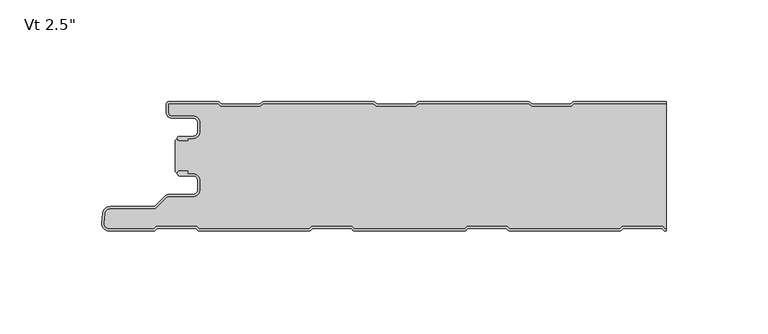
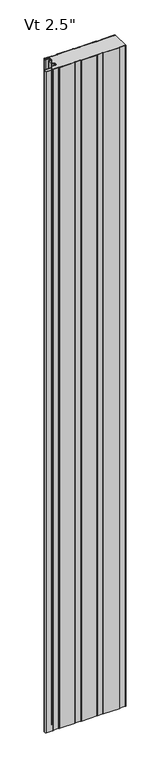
"""IFC4 building model written with IfcOpenShell, lengths in millimetres: plate geometry."""

from ifc_helpers import new_model, si_unit, point, frame, frame_2d, origin, origin_with_axes, place, context, project, spatial, polyline, circle_curve, trimmed, segment, composite_curve, outline, extrude, source, transform, mapped, element, save
from ifc_brep_helpers import plane_surface, cylinder_surface, revolved_surface, advanced_brep


def plate_bcca7846(model_context):
    return source(origin(), model_context, "Body", "SolidModel", [
        advanced_brep(
        [(-118.368691, -17.0015034, 2400.0), (-119.3686883, -18.0015065, 2400.0), (-118.368691, -19.0014978, 2400.0), (-114.3684874, -19.0014979, 2400.0), (-114.3684874, -18.0015034, 2400.0), (-111.6762776, -18.0015034, 2400.0), (-108.3762819, -14.7015077, 2400.0), (-108.3762819, -10.3015164, 2400.0), (-111.6762774, -7.001521, 2400.0), (-122.0962563, -7.001521, 2400.0), (-123.8662505, -5.2315268, 2400.0), (-123.8662505, -0.9999791, 2400.0), (-99.3659738, -0.9999791, 2400.0), (-97.9803312, -2.2002182, 2400.0), (-78.6051649, -2.2002182, 2400.0), (-77.219532, -0.9999874, 2400.0), (-23.1661166, -0.9999874, 2400.0), (-21.7804836, -2.2002182, 2400.0), (-2.4053173, -2.2002182, 2400.0), (-1.0196844, -0.9999874, 2400.0), (53.033731, -0.9999874, 2400.0), (54.419364, -2.2002182, 2400.0), (73.7945303, -2.2002182, 2400.0), (75.1801632, -0.9999874, 2400.0), (120.3999998, -0.9999874, 2400.0), (120.3999998, 1.26e-05, 2400.0), (75.3293144, 1.26e-05, 2400.0), (74.4126975, -0.3417759, 2400.0), (73.4216499, -1.2002182, 2400.0), (54.7922444, -1.2002182, 2400.0), (53.8011968, -0.3417759, 2400.0), (52.8845799, 1.26e-05, 2400.0), (-0.8705332, 1.26e-05, 2400.0), (-1.7871501, -0.3417759, 2400.0), (-2.7781977, -1.2002182, 2400.0), (-21.4076032, -1.2002182, 2400.0), (-22.3986508, -0.3417759, 2400.0), (-23.3152677, 1.26e-05, 2400.0), (-77.0703808, 1.26e-05, 2400.0), (-77.9869977, -0.3417759, 2400.0), (-78.9780453, -1.2002182, 2400.0), (-97.6074508, -1.2002182, 2400.0), (-98.5984984, -0.3417759, 2400.0), (-99.5152067, 1.26e-05, 2400.0), (-123.4662543, 2.09e-05, 2400.0), (-124.8662505, -1.3999752, 2400.0), (-124.8662505, -5.2315268, 2400.0), (-122.0962563, -8.001521, 2400.0), (-111.6762774, -8.001521, 2400.0), (-109.3762819, -10.3015164, 2400.0), (-109.3762819, -14.7015077, 2400.0), (-111.6762776, -17.0015034, 2400.0), (-118.368691, -17.0015034, 0.0), (-111.6762776, -17.0015034, 0.0), (-109.3762819, -14.7015077, 0.0), (-109.3762819, -10.3015164, 0.0), (-111.6762774, -8.001521, 0.0), (-122.0962563, -8.001521, 0.0), (-124.8662505, -5.2315268, 0.0), (-124.8662505, -1.3999752, 0.0), (-123.4662543, 2.09e-05, 0.0), (-99.5151153, 2.09e-05, 0.0), (-98.5984984, -0.3417759, 0.0), (-97.6074508, -1.2002182, 0.0), (-78.9780453, -1.2002182, 0.0), (-77.9869977, -0.3417759, 0.0), (-77.0703808, 1.26e-05, 0.0), (-23.3152677, 1.26e-05, 0.0), (-22.3986508, -0.3417759, 0.0), (-21.4076032, -1.2002182, 0.0), (-2.7781977, -1.2002182, 0.0), (-1.7871501, -0.3417759, 0.0), (-0.8705332, 1.26e-05, 0.0), (52.8845799, 1.26e-05, 0.0), (53.8011968, -0.3417759, 0.0), (54.7922444, -1.2002182, 0.0), (73.4216499, -1.2002182, 0.0), (74.4126975, -0.3417759, 0.0), (75.3293144, 1.26e-05, 0.0), (120.3999998, 1.26e-05, 0.0), (120.3999998, -0.9999874, 0.0), (75.1801632, -0.9999874, 0.0), (73.7945303, -2.2002182, 0.0), (54.419364, -2.2002182, 0.0), (53.033731, -0.9999874, 0.0), (-1.0196844, -0.9999874, 0.0), (-2.4053173, -2.2002182, 0.0), (-21.7804836, -2.2002182, 0.0), (-23.1661166, -0.9999874, 0.0), (-77.219532, -0.9999874, 0.0), (-78.6051649, -2.2002182, 0.0), (-97.9803312, -2.2002182, 0.0), (-99.3659738, -0.9999791, 0.0), (-123.8662505, -0.9999791, 0.0), (-123.8662505, -5.2315268, 0.0), (-122.0962563, -7.001521, 0.0), (-111.6762774, -7.001521, 0.0), (-108.3762819, -10.3015164, 0.0), (-108.3762819, -14.7015077, 0.0), (-111.6762776, -18.0015034, 0.0), (-114.3684874, -18.0015034, 0.0), (-114.3684874, -19.0014979, 0.0), (-118.368691, -19.0014979, 0.0), (-119.3686882, -18.0015065, 0.0)],
        [
            (0, 1, circle_curve(frame((-118.368691, -18.0015006, 2400.0), z_axis=(0.0, 0.0, 1.0), x_axis=(1.0, 0.0, 0.0)), 0.9999973)),
            (1, 2, circle_curve(frame((-118.368691, -18.0015006, 2400.0), z_axis=(0.0, 0.0, 1.0), x_axis=(1.0, 0.0, 0.0)), 0.9999972)),
            (2, 3),
            (3, 4),
            (4, 5),
            (5, 6, circle_curve(frame((-111.6762776, -14.7015077, 2400.0), z_axis=(0.0, 0.0, 1.0), x_axis=(1.0, 0.0, 0.0)), 3.2999957)),
            (6, 7),
            (7, 8, circle_curve(frame((-111.6762774, -10.3015164, 2400.0), z_axis=(0.0, 0.0, 1.0), x_axis=(1.0, 0.0, 0.0)), 3.2999955)),
            (8, 9),
            (9, 10, circle_curve(frame((-122.0962563, -5.2315268, 2400.0), z_axis=(0.0, 0.0, -1.0), x_axis=(1.0, 0.0, 0.0)), 1.7699942)),
            (10, 11),
            (11, 12),
            (12, 13),
            (13, 14),
            (14, 15),
            (15, 16),
            (16, 17),
            (17, 18),
            (18, 19),
            (19, 20),
            (20, 21),
            (21, 22),
            (22, 23),
            (23, 24),
            (24, 25),
            (25, 26),
            (26, 27, circle_curve(frame((75.3293144, -1.3999846, 2400.0), z_axis=(0.0, 0.0, 1.0), x_axis=(1.0, 0.0, 0.0)), 1.3999972)),
            (27, 28),
            (28, 29),
            (29, 30),
            (30, 31, circle_curve(frame((52.8845799, -1.3999846, 2400.0), z_axis=(0.0, 0.0, 1.0), x_axis=(1.0, 0.0, 0.0)), 1.3999972)),
            (31, 32),
            (32, 33, circle_curve(frame((-0.8705332, -1.3999846, 2400.0), z_axis=(0.0, 0.0, 1.0), x_axis=(1.0, 0.0, 0.0)), 1.3999972)),
            (33, 34),
            (34, 35),
            (35, 36),
            (36, 37, circle_curve(frame((-23.3152677, -1.3999846, 2400.0), z_axis=(0.0, 0.0, 1.0), x_axis=(1.0, 0.0, 0.0)), 1.3999972)),
            (37, 38),
            (38, 39, circle_curve(frame((-77.0703808, -1.3999846, 2400.0), z_axis=(0.0, 0.0, 1.0), x_axis=(1.0, 0.0, 0.0)), 1.3999972)),
            (39, 40),
            (40, 41),
            (41, 42),
            (42, 43, circle_curve(frame((-99.5151153, -1.3999846, 2400.0), z_axis=(0.0, 0.0, 1.0), x_axis=(1.0, 0.0, 0.0)), 1.3999972)),
            (43, 44),
            (44, 45, circle_curve(frame((-123.4662543, -1.3999752, 2400.0), z_axis=(0.0, 0.0, 1.0), x_axis=(1.0, 0.0, 0.0)), 1.3999962)),
            (45, 46),
            (46, 47, circle_curve(frame((-122.0962563, -5.2315268, 2400.0), z_axis=(0.0, 0.0, 1.0), x_axis=(1.0, 0.0, 0.0)), 2.7699942)),
            (47, 48),
            (48, 49, circle_curve(frame((-111.6762774, -10.3015164, 2400.0), z_axis=(0.0, 0.0, -1.0), x_axis=(1.0, 0.0, 0.0)), 2.2999955)),
            (49, 50),
            (50, 51, circle_curve(frame((-111.6762776, -14.7015077, 2400.0), z_axis=(0.0, 0.0, -1.0), x_axis=(1.0, 0.0, 0.0)), 2.2999957)),
            (51, 0),
            (52, 53),
            (53, 54, circle_curve(frame((-111.6762776, -14.7015077, 0.0), z_axis=(0.0, 0.0, 1.0), x_axis=(1.0, 0.0, 0.0)), 2.2999957)),
            (54, 55),
            (55, 56, circle_curve(frame((-111.6762774, -10.3015164, 0.0), z_axis=(0.0, 0.0, 1.0), x_axis=(1.0, 0.0, 0.0)), 2.2999955)),
            (56, 57),
            (57, 58, circle_curve(frame((-122.0962563, -5.2315268, 0.0), z_axis=(0.0, 0.0, -1.0), x_axis=(1.0, 0.0, 0.0)), 2.7699942)),
            (58, 59),
            (59, 60, circle_curve(frame((-123.4662543, -1.3999752, 0.0), z_axis=(0.0, 0.0, -1.0), x_axis=(1.0, 0.0, 0.0)), 1.3999962)),
            (60, 61),
            (61, 62, circle_curve(frame((-99.5151153, -1.3999846, 0.0), z_axis=(0.0, 0.0, -1.0), x_axis=(1.0, 0.0, 0.0)), 1.3999972)),
            (62, 63),
            (63, 64),
            (64, 65),
            (65, 66, circle_curve(frame((-77.0703808, -1.3999846, 0.0), z_axis=(0.0, 0.0, -1.0), x_axis=(1.0, 0.0, 0.0)), 1.3999972)),
            (66, 67),
            (67, 68, circle_curve(frame((-23.3152677, -1.3999846, 0.0), z_axis=(0.0, 0.0, -1.0), x_axis=(1.0, 0.0, 0.0)), 1.3999972)),
            (68, 69),
            (69, 70),
            (70, 71),
            (71, 72, circle_curve(frame((-0.8705332, -1.3999846, 0.0), z_axis=(0.0, 0.0, -1.0), x_axis=(1.0, 0.0, 0.0)), 1.3999972)),
            (72, 73),
            (73, 74, circle_curve(frame((52.8845799, -1.3999846, 0.0), z_axis=(0.0, 0.0, -1.0), x_axis=(1.0, 0.0, 0.0)), 1.3999972)),
            (74, 75),
            (75, 76),
            (76, 77),
            (77, 78, circle_curve(frame((75.3293144, -1.3999846, 0.0), z_axis=(0.0, 0.0, -1.0), x_axis=(1.0, 0.0, 0.0)), 1.3999972)),
            (78, 79),
            (79, 80),
            (80, 81),
            (81, 82),
            (82, 83),
            (83, 84),
            (84, 85),
            (85, 86),
            (86, 87),
            (87, 88),
            (88, 89),
            (89, 90),
            (90, 91),
            (91, 92),
            (92, 93),
            (93, 94),
            (94, 95, circle_curve(frame((-122.0962563, -5.2315268, 0.0), z_axis=(0.0, 0.0, 1.0), x_axis=(1.0, 0.0, 0.0)), 1.7699942)),
            (95, 96),
            (96, 97, circle_curve(frame((-111.6762774, -10.3015164, 0.0), z_axis=(0.0, 0.0, -1.0), x_axis=(1.0, 0.0, 0.0)), 3.2999955)),
            (97, 98),
            (98, 99, circle_curve(frame((-111.6762776, -14.7015077, 0.0), z_axis=(0.0, 0.0, -1.0), x_axis=(1.0, 0.0, 0.0)), 3.2999957)),
            (99, 100),
            (100, 101),
            (101, 102),
            (102, 103, circle_curve(frame((-118.368691, -18.0015006, 0.0), z_axis=(0.0, 0.0, -1.0), x_axis=(1.0, 0.0, 0.0)), 0.9999972)),
            (103, 52, circle_curve(frame((-118.368691, -18.0015006, 0.0), z_axis=(0.0, 0.0, -1.0), x_axis=(1.0, 0.0, 0.0)), 0.9999973)),
            (24, 80),
            (79, 25),
            (51, 53),
            (52, 0),
            (50, 54),
            (49, 55),
            (48, 56),
            (47, 57),
            (46, 58),
            (45, 59),
            (44, 60),
            (43, 61),
            (78, 26),
            (42, 62),
            (41, 63),
            (40, 64),
            (38, 66),
            (65, 39),
            (36, 68),
            (67, 37),
            (77, 27),
            (76, 28),
            (31, 73),
            (72, 32),
            (71, 33),
            (34, 70),
            (69, 35),
            (30, 74),
            (29, 75),
            (2, 102),
            (101, 3),
            (1, 103),
            (23, 81),
            (22, 82),
            (21, 83),
            (20, 84),
            (19, 85),
            (18, 86),
            (17, 87),
            (16, 88),
            (15, 89),
            (14, 90),
            (13, 91),
            (12, 92),
            (11, 93),
            (10, 94),
            (9, 95),
            (8, 96),
            (7, 97),
            (6, 98),
            (5, 99),
            (4, 100),
        ],
        [
            plane_surface(frame((184.4000002, 1.26e-05, 2400.0), z_axis=(0.0, 0.0, 1.0), x_axis=(0.0, 1.0, 0.0))),
            plane_surface(frame((184.4000002, 1.26e-05, 0.0), z_axis=(0.0, 0.0, -1.0), x_axis=(0.0, 1.0, 0.0))),
            plane_surface(frame((120.3999998, -73.4999874, 2400.0), z_axis=(1.0, 0.0, 0.0), x_axis=(0.0, 0.0, -1.0))),
            plane_surface(frame((-118.368691, -17.0015034, 2400.0), z_axis=(0.0, 1.0, 0.0), x_axis=(0.0, 0.0, -1.0))),
            revolved_surface(polyline([(-109.37628190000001, -14.7015077, 0.0), (-109.37628190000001, -14.7015077, 2400.0)]), (-111.6762776, -14.7015077, 2400.0), (0.0, 0.0, -1.0)),
            plane_surface(frame((-109.3762819, -14.7015077, 2400.0), z_axis=(-1.0, 0.0, 0.0), x_axis=(0.0, 0.0, -1.0))),
            revolved_surface(polyline([(-109.37628190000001, -10.3015164, 0.0), (-109.37628190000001, -10.3015164, 2400.0)]), (-111.6762774, -10.3015164, 2400.0), (0.0, 0.0, -1.0)),
            plane_surface(frame((-111.6762774, -8.001521, 2400.0), z_axis=(0.0, -1.0, 0.0), x_axis=(0.0, 0.0, -1.0))),
            cylinder_surface(frame((-122.0962563, -5.2315268, 2400.0), z_axis=(0.0, 0.0, 1.0), x_axis=(1.0, 0.0, 0.0)), 2.7699942),
            plane_surface(frame((-124.8662505, -5.2315268, 2400.0), z_axis=(-1.0, 0.0, 0.0), x_axis=(0.0, 0.0, -1.0))),
            cylinder_surface(frame((-123.4662543, -1.3999752, 2400.0), z_axis=(0.0, 0.0, 1.0), x_axis=(1.0, 0.0, 0.0)), 1.3999962),
            plane_surface(frame((-123.4662543, 2.09e-05, 2400.0), z_axis=(0.0, 1.0, 0.0), x_axis=(0.0, 0.0, -1.0))),
            plane_surface(frame((75.3293144, 1.26e-05, 2400.0), z_axis=(0.0, 1.0, 0.0), x_axis=(0.0, 0.0, -1.0))),
            cylinder_surface(frame((-99.5151153, -1.3999846, 2400.0), z_axis=(0.0, 0.0, 1.0), x_axis=(1.0, 0.0, 0.0)), 1.3999972),
            plane_surface(frame((-98.5984984, -0.3417759, 2400.0), z_axis=(0.6547276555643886, 0.755864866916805, 0.0), x_axis=(0.0, 0.0, -1.0))),
            plane_surface(frame((-88.2927481, -1.2002182, 2400.0), z_axis=(0.0, 1.0, 0.0), x_axis=(0.0, 0.0, -1.0))),
            cylinder_surface(frame((-77.0703808, -1.3999846, 2400.0), z_axis=(0.0, 0.0, 1.0), x_axis=(1.0, 0.0, 0.0)), 1.3999972),
            plane_surface(frame((-78.9780453, -1.2002182, 2400.0), z_axis=(-0.6547276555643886, 0.755864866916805, 0.0), x_axis=(0.0, 0.0, -1.0))),
            cylinder_surface(frame((-23.3152677, -1.3999846, 2400.0), z_axis=(0.0, 0.0, 1.0), x_axis=(1.0, 0.0, 0.0)), 1.3999972),
            cylinder_surface(frame((75.3293144, -1.3999846, 2400.0), z_axis=(0.0, 0.0, 1.0), x_axis=(1.0, 0.0, 0.0)), 1.3999972),
            plane_surface(frame((73.4216499, -1.2002182, 2400.0), z_axis=(-0.6547276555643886, 0.755864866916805, 0.0), x_axis=(0.0, 0.0, -1.0))),
            plane_surface(frame((-0.8705332, 1.26e-05, 2400.0), z_axis=(0.0, 1.0, 0.0), x_axis=(0.0, 0.0, -1.0))),
            cylinder_surface(frame((-0.8705332, -1.3999846, 2400.0), z_axis=(0.0, 0.0, 1.0), x_axis=(1.0, 0.0, 0.0)), 1.3999972),
            plane_surface(frame((-12.0929005, -1.2002182, 2400.0), z_axis=(0.0, 1.0, 0.0), x_axis=(0.0, 0.0, -1.0))),
            plane_surface(frame((-22.3986508, -0.3417759, 2400.0), z_axis=(0.6547276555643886, 0.755864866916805, 0.0), x_axis=(0.0, 0.0, -1.0))),
            plane_surface(frame((-2.7781977, -1.2002182, 2400.0), z_axis=(-0.6547276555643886, 0.755864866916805, 0.0), x_axis=(0.0, 0.0, -1.0))),
            plane_surface(frame((-77.0703808, 1.26e-05, 2400.0), z_axis=(0.0, 1.0, 0.0), x_axis=(0.0, 0.0, -1.0))),
            cylinder_surface(frame((52.8845799, -1.3999846, 2400.0), z_axis=(0.0, 0.0, 1.0), x_axis=(1.0, 0.0, 0.0)), 1.3999972),
            plane_surface(frame((53.8011968, -0.3417759, 2400.0), z_axis=(0.6547276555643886, 0.755864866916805, 0.0), x_axis=(0.0, 0.0, -1.0))),
            plane_surface(frame((64.1069471, -1.2002182, 2400.0), z_axis=(0.0, 1.0, 0.0), x_axis=(0.0, 0.0, -1.0))),
            plane_surface(frame((-114.3684874, -19.0014979, 2400.0), z_axis=(0.0, -1.0, 0.0), x_axis=(0.0, 0.0, -1.0))),
            cylinder_surface(frame((-118.368691, -18.0015006, 2400.0), z_axis=(0.0, 0.0, 1.0), x_axis=(1.0, 0.0, 0.0)), 0.9999972),
            cylinder_surface(frame((-118.368691, -18.0015006, 2400.0), z_axis=(0.0, 0.0, 1.0), x_axis=(1.0, 0.0, 0.0)), 0.9999973),
            plane_surface(frame((129.2335786, -0.9999874, 2400.0), z_axis=(0.0, -1.0, 0.0), x_axis=(0.0, 0.0, -1.0))),
            plane_surface(frame((75.1801632, -0.9999874, 2400.0), z_axis=(0.6547276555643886, -0.755864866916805, 0.0), x_axis=(0.0, 0.0, -1.0))),
            plane_surface(frame((73.7945303, -2.2002182, 2400.0), z_axis=(0.0, -1.0, 0.0), x_axis=(0.0, 0.0, -1.0))),
            plane_surface(frame((54.419364, -2.2002182, 2400.0), z_axis=(-0.6547276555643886, -0.755864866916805, 0.0), x_axis=(0.0, 0.0, -1.0))),
            plane_surface(frame((53.033731, -0.9999874, 2400.0), z_axis=(0.0, -1.0, 0.0), x_axis=(0.0, 0.0, -1.0))),
            plane_surface(frame((-1.0196844, -0.9999874, 2400.0), z_axis=(0.6547276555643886, -0.755864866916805, 0.0), x_axis=(0.0, 0.0, -1.0))),
            plane_surface(frame((-2.4053173, -2.2002182, 2400.0), z_axis=(0.0, -1.0, 0.0), x_axis=(0.0, 0.0, -1.0))),
            plane_surface(frame((-21.7804836, -2.2002182, 2400.0), z_axis=(-0.6547276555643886, -0.755864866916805, 0.0), x_axis=(0.0, 0.0, -1.0))),
            plane_surface(frame((-23.1661166, -0.9999874, 2400.0), z_axis=(0.0, -1.0, 0.0), x_axis=(0.0, 0.0, -1.0))),
            plane_surface(frame((-77.219532, -0.9999874, 2400.0), z_axis=(0.6547276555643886, -0.755864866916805, 0.0), x_axis=(0.0, 0.0, -1.0))),
            plane_surface(frame((-78.6051649, -2.2002182, 2400.0), z_axis=(0.0, -1.0, 0.0), x_axis=(0.0, 0.0, -1.0))),
            plane_surface(frame((-97.9803312, -2.2002182, 2400.0), z_axis=(-0.6547276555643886, -0.755864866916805, 0.0), x_axis=(0.0, 0.0, -1.0))),
            plane_surface(frame((-99.3659738, -0.9999791, 2400.0), z_axis=(0.0, -1.0, 0.0), x_axis=(0.0, 0.0, -1.0))),
            plane_surface(frame((-123.8662505, -0.9999791, 2400.0), z_axis=(1.0, 0.0, 0.0), x_axis=(0.0, 0.0, -1.0))),
            revolved_surface(polyline([(-120.3262621, -5.2315268, 0.0), (-120.3262621, -5.2315268, 2400.0)]), (-122.0962563, -5.2315268, 2400.0), (0.0, 0.0, -1.0)),
            plane_surface(frame((-122.0962563, -7.001521, 2400.0), z_axis=(0.0, 1.0, 0.0), x_axis=(0.0, 0.0, -1.0))),
            cylinder_surface(frame((-111.6762774, -10.3015164, 2400.0), z_axis=(0.0, 0.0, 1.0), x_axis=(1.0, 0.0, 0.0)), 3.2999955),
            plane_surface(frame((-108.3762819, -10.3015164, 2400.0), z_axis=(1.0, 0.0, 0.0), x_axis=(0.0, 0.0, -1.0))),
            cylinder_surface(frame((-111.6762776, -14.7015077, 2400.0), z_axis=(0.0, 0.0, 1.0), x_axis=(1.0, 0.0, 0.0)), 3.2999957),
            plane_surface(frame((-111.6762776, -18.0015034, 2400.0), z_axis=(0.0, -1.0, 0.0), x_axis=(0.0, 0.0, -1.0))),
            plane_surface(frame((-114.3684874, -18.0015034, 2400.0), z_axis=(1.0, 0.0, 0.0), x_axis=(0.0, 0.0, -1.0))),
        ],
        [
            (0, [[1, 2, 3, 4, 5, 6, 7, 8, 9, 10, 11, 12, 13, 14, 15, 16, 17, 18, 19, 20, 21, 22, 23, 24, 25, 26, 27, 28, 29, 30, 31, 32, 33, 34, 35, 36, 37, 38, 39, 40, 41, 42, 43, 44, 45, 46, 47, 48, 49, 50, 51, 52]]),
            (1, [[53, 54, 55, 56, 57, 58, 59, 60, 61, 62, 63, 64, 65, 66, 67, 68, 69, 70, 71, 72, 73, 74, 75, 76, 77, 78, 79, 80, 81, 82, 83, 84, 85, 86, 87, 88, 89, 90, 91, 92, 93, 94, 95, 96, 97, 98, 99, 100, 101, 102, 103, 104]]),
            (2, [[105, -80, 106, -25]]),
            (3, [[107, -53, 108, -52]]),
            (4, [[109, -54, -107, -51]]),
            (5, [[110, -55, -109, -50]]),
            (6, [[111, -56, -110, -49]]),
            (7, [[112, -57, -111, -48]]),
            (8, [[113, -58, -112, -47]]),
            (9, [[114, -59, -113, -46]]),
            (10, [[115, -60, -114, -45]]),
            (11, [[116, -61, -115, -44]]),
            (12, [[-26, -106, -79, 117]]),
            (13, [[118, -62, -116, -43]]),
            (14, [[119, -63, -118, -42]]),
            (15, [[120, -64, -119, -41]]),
            (16, [[121, -66, 122, -39]]),
            (17, [[-122, -65, -120, -40]]),
            (18, [[123, -68, 124, -37]]),
            (19, [[-117, -78, 125, -27]]),
            (20, [[-125, -77, 126, -28]]),
            (21, [[127, -73, 128, -32]]),
            (22, [[-128, -72, 129, -33]]),
            (23, [[130, -70, 131, -35]]),
            (24, [[-131, -69, -123, -36]]),
            (25, [[-129, -71, -130, -34]]),
            (26, [[-124, -67, -121, -38]]),
            (27, [[132, -74, -127, -31]]),
            (28, [[133, -75, -132, -30]]),
            (29, [[-126, -76, -133, -29]]),
            (30, [[134, -102, 135, -3]]),
            (31, [[136, -103, -134, -2]]),
            (32, [[-108, -104, -136, -1]]),
            (33, [[-81, -105, -24, 137]]),
            (34, [[138, -82, -137, -23]]),
            (35, [[139, -83, -138, -22]]),
            (36, [[140, -84, -139, -21]]),
            (37, [[141, -85, -140, -20]]),
            (38, [[142, -86, -141, -19]]),
            (39, [[143, -87, -142, -18]]),
            (40, [[144, -88, -143, -17]]),
            (41, [[145, -89, -144, -16]]),
            (42, [[146, -90, -145, -15]]),
            (43, [[147, -91, -146, -14]]),
            (44, [[148, -92, -147, -13]]),
            (45, [[149, -93, -148, -12]]),
            (46, [[150, -94, -149, -11]]),
            (47, [[151, -95, -150, -10]]),
            (48, [[152, -96, -151, -9]]),
            (49, [[153, -97, -152, -8]]),
            (50, [[154, -98, -153, -7]]),
            (51, [[155, -99, -154, -6]]),
            (52, [[156, -100, -155, -5]]),
            (53, [[-135, -101, -156, -4]]),
        ],
    ),
        extrude(outline(composite_curve([segment(polyline([(-131.0415932, -63.4997253), (-152.8521175, -63.4997253)]), True, "CONTINUOUS"), segment(trimmed(circle_curve(frame_2d((-152.8521175, -59.929486)), 3.5702393), [point((-152.8521175, -63.4997253))], [point((-156.4087619, -59.6182156))], False, "CARTESIAN"), True, "CONTINUOUS"), segment(polyline([(-156.4087619, -59.6182156), (-155.9690674, -54.594169)]), True, "CONTINUOUS"), segment(trimmed(circle_curve(frame_2d((-152.3198391, -55.2049701)), 3.6999926), [point((-155.9690674, -54.594169))], [point((-152.3198391, -51.5049775))], False, "CARTESIAN"), True, "CONTINUOUS"), segment(polyline([(-152.3198391, -51.5049775), (-131.1773995, -51.5049775)]), True, "CONTINUOUS"), segment(trimmed(circle_curve(frame_2d((-131.1773995, -50.2049801)), 1.2999974), [point((-131.1773995, -51.5049775))], [point((-130.2581626, -51.1242171))], True, "CARTESIAN"), True, "CONTINUOUS"), segment(polyline([(-130.2581626, -51.1242171), (-125.4297451, -46.2957996)]), True, "CONTINUOUS"), segment(trimmed(circle_curve(frame_2d((-123.5205606, -48.2049841)), 2.6999946), [point((-125.4297451, -46.2957996))], [point((-123.5205606, -45.5049895))], False, "CARTESIAN"), True, "CONTINUOUS"), segment(polyline([(-123.5205606, -45.5049895), (-111.7096715, -45.5049895)]), True, "CONTINUOUS"), segment(trimmed(circle_curve(frame_2d((-111.7096715, -43.1549942)), 2.3499953), [point((-111.7096715, -45.5049895))], [point((-109.3596762, -43.1549942))], True, "CARTESIAN"), True, "CONTINUOUS"), segment(polyline([(-109.3596762, -43.1549942), (-109.3596762, -38.755003)]), True, "CONTINUOUS"), segment(trimmed(circle_curve(frame_2d((-111.7096715, -38.755003)), 2.3499953), [point((-109.3596762, -38.755003))], [point((-111.7096715, -36.4050077))], True, "CARTESIAN"), True, "CONTINUOUS"), segment(polyline([(-111.7096715, -36.4050077), (-118.2289777, -36.4050077)]), True, "CONTINUOUS"), segment(trimmed(circle_curve(frame_2d((-118.1686906, -35.2065254)), 1.1999976), [point((-118.2289777, -36.4050077))], [point((-119.3683, -35.1760035))], False, "CARTESIAN"), True, "CONTINUOUS"), segment(trimmed(circle_curve(frame_2d((-118.1686906, -35.2065254)), 1.1999976), [point((-119.3683, -35.1760035))], [point((-118.167176, -34.0065288))], False, "CARTESIAN"), True, "CONTINUOUS"), segment(polyline([(-118.167176, -34.0065288), (-114.4087826, -34.0065288), (-114.4087826, -35.4050077), (-111.7096715, -35.4050077)]), True, "CONTINUOUS"), segment(trimmed(circle_curve(frame_2d((-111.7096715, -38.755003)), 3.3499953), [point((-111.7096715, -35.4050077))], [point((-108.3596762, -38.755003))], False, "CARTESIAN"), True, "CONTINUOUS"), segment(polyline([(-108.3596762, -38.755003), (-108.3596762, -43.1549942)]), True, "CONTINUOUS"), segment(trimmed(circle_curve(frame_2d((-111.7096715, -43.1549942)), 3.3499953), [point((-108.3596762, -43.1549942))], [point((-111.7096715, -46.5049895))], False, "CARTESIAN"), True, "CONTINUOUS"), segment(polyline([(-111.7096715, -46.5049895), (-123.5205606, -46.5049895)]), True, "CONTINUOUS"), segment(trimmed(circle_curve(frame_2d((-123.5205606, -48.2049841)), 1.6999946), [point((-123.5205606, -46.5049895))], [point((-124.7226383, -47.0029064))], True, "CARTESIAN"), True, "CONTINUOUS"), segment(polyline([(-124.7226383, -47.0029064), (-130.2247094, -52.5049775), (-152.3198391, -52.5049775)]), True, "CONTINUOUS"), segment(trimmed(circle_curve(frame_2d((-152.3198391, -55.2049701)), 2.6999926), [point((-152.3198391, -52.5049775))], [point((-154.9765707, -54.7235795))], True, "CARTESIAN"), True, "CONTINUOUS"), segment(polyline([(-154.9765707, -54.7235795), (-155.4125697, -59.7054003)]), True, "CONTINUOUS"), segment(trimmed(circle_curve(frame_2d((-152.8521175, -59.929486)), 2.5702393), [point((-155.4125697, -59.7054003))], [point((-152.8521175, -62.4997253))], True, "CARTESIAN"), True, "CONTINUOUS"), segment(polyline([(-152.8521175, -62.4997253), (-130.879096, -62.4997253), (-129.6791275, -61.2997567), (-109.959715, -61.2997567), (-108.7594843, -62.4999874), (-54.6793525, -62.4999874), (-53.4791218, -61.2997567), (-33.7597093, -61.2997567), (-32.5594786, -62.4999874), (21.5206532, -62.4999874), (22.7208839, -61.2997567), (42.4402964, -61.2997567), (43.6405271, -62.4999874), (97.7206589, -62.4999874), (98.9208896, -61.2997567), (118.6403021, -61.2997567), (119.8405328, -62.4999874), (120.3999998, -62.4999874), (120.3999998, -63.4999874), (120.010284, -63.4999874)]), True, "CONTINUOUS"), segment(trimmed(circle_curve(frame_2d((120.0026306, -62.1000112)), 1.3999972), [point((120.010284, -63.4999874))], [point((118.9585798, -63.0327223))], False, "CARTESIAN"), True, "CONTINUOUS"), segment(polyline([(118.9585798, -63.0327223), (118.2256142, -62.2997567), (99.334945, -62.2997567), (98.6020004, -63.0327014)]), True, "CONTINUOUS"), segment(trimmed(circle_curve(frame_2d((97.5579496, -62.0999902)), 1.3999972), [point((98.6020004, -63.0327014))], [point((97.5579496, -63.4999874))], False, "CARTESIAN"), True, "CONTINUOUS"), segment(polyline([(97.5579496, -63.4999874), (43.8104364, -63.4999874)]), True, "CONTINUOUS"), segment(trimmed(circle_curve(frame_2d((43.802783, -62.1000112)), 1.3999972), [point((43.8104364, -63.4999874))], [point((42.7587322, -63.0327223))], False, "CARTESIAN"), True, "CONTINUOUS"), segment(polyline([(42.7587322, -63.0327223), (42.0257666, -62.2997567), (23.1350974, -62.2997567), (22.4021528, -63.0327014)]), True, "CONTINUOUS"), segment(trimmed(circle_curve(frame_2d((21.358102, -62.0999902)), 1.3999972), [point((22.4021528, -63.0327014))], [point((21.358102, -63.4999874))], False, "CARTESIAN"), True, "CONTINUOUS"), segment(polyline([(21.358102, -63.4999874), (-32.3894112, -63.4999874)]), True, "CONTINUOUS"), segment(trimmed(circle_curve(frame_2d((-32.3970646, -62.1000112)), 1.3999972), [point((-32.3894112, -63.4999874))], [point((-33.4411154, -63.0327223))], False, "CARTESIAN"), True, "CONTINUOUS"), segment(polyline([(-33.4411154, -63.0327223), (-34.174081, -62.2997567), (-53.0647502, -62.2997567), (-53.7976948, -63.0327014)]), True, "CONTINUOUS"), segment(trimmed(circle_curve(frame_2d((-54.8417456, -62.0999902)), 1.3999972), [point((-53.7976948, -63.0327014))], [point((-54.8417456, -63.4999874))], False, "CARTESIAN"), True, "CONTINUOUS"), segment(polyline([(-54.8417456, -63.4999874), (-108.5892588, -63.4999874)]), True, "CONTINUOUS"), segment(trimmed(circle_curve(frame_2d((-108.5969122, -62.1000112)), 1.3999972), [point((-108.5892588, -63.4999874))], [point((-109.640963, -63.0327223))], False, "CARTESIAN"), True, "CONTINUOUS"), segment(polyline([(-109.640963, -63.0327223), (-110.3739286, -62.2997567), (-129.2649139, -62.2997567), (-129.9976402, -63.032483)]), True, "CONTINUOUS"), segment(trimmed(circle_curve(frame_2d((-131.0415932, -62.0998592)), 1.3998661), [point((-129.9976402, -63.032483))], [point((-131.0415932, -63.4997253))], False, "CARTESIAN"), True, "CONTINUOUS")], self_intersect=False)), origin_with_axes(), (0.0, 0.0, 1.0), 2400.0),
        extrude(outline(composite_curve([segment(polyline([(-119.3683, -35.1760035), (-120.3999998, -34.1443036), (-120.3999998, -19.0328183), (-119.3686882, -18.0015066)]), True, "CONTINUOUS"), segment(trimmed(circle_curve(frame_2d((-118.368691, -18.0015007)), 0.9999972), [point((-119.3686882, -18.0015066))], [point((-118.368691, -19.0014979))], True, "CARTESIAN"), True, "CONTINUOUS"), segment(polyline([(-118.368691, -19.0014979), (-114.3684873, -19.0014979), (-114.3684873, -18.0015034), (-111.6762775, -18.0015034)]), True, "CONTINUOUS"), segment(trimmed(circle_curve(frame_2d((-111.6762775, -14.7015077)), 3.2999957), [point((-111.6762775, -18.0015034))], [point((-108.3762818, -14.7015077))], True, "CARTESIAN"), True, "CONTINUOUS"), segment(polyline([(-108.3762818, -14.7015077), (-108.3762818, -10.3015164)]), True, "CONTINUOUS"), segment(trimmed(circle_curve(frame_2d((-111.6762777, -10.3015164)), 3.2999959), [point((-108.3762818, -10.3015164))], [point((-111.6762777, -7.0015206))], True, "CARTESIAN"), True, "CONTINUOUS"), segment(polyline([(-111.6762777, -7.0015206), (-122.0962562, -7.0015206)]), True, "CONTINUOUS"), segment(trimmed(circle_curve(frame_2d((-122.0962562, -5.2315264)), 1.7699942), [point((-122.0962562, -7.0015206))], [point((-123.8662504, -5.2315264))], False, "CARTESIAN"), True, "CONTINUOUS"), segment(polyline([(-123.8662504, -5.2315264), (-123.8662504, -0.9999791), (-99.3659738, -0.9999791), (-97.9803312, -2.2002182), (-78.6051649, -2.2002182), (-77.2195319, -0.9999874), (-23.1661165, -0.9999874), (-21.7804836, -2.2002182), (-2.4053173, -2.2002182), (-1.0196843, -0.9999874), (53.0337311, -0.9999874), (54.419364, -2.2002182), (73.7945303, -2.2002182), (75.1801633, -0.9999874), (120.3999998, -0.9999874), (120.3999998, -62.4999874), (119.8405328, -62.4999874), (118.6403021, -61.2997567), (98.9208896, -61.2997567), (97.7206589, -62.4999874), (43.6405271, -62.4999874), (42.4402964, -61.2997567), (22.7208839, -61.2997567), (21.5206532, -62.4999874), (-32.5594786, -62.4999874), (-33.7597093, -61.2997567), (-53.4791218, -61.2997567), (-54.6793525, -62.4999874), (-108.7594843, -62.4999874), (-109.959715, -61.2997567), (-129.6791275, -61.2997567), (-130.879096, -62.4997253), (-152.8521175, -62.4997253)]), True, "CONTINUOUS"), segment(trimmed(circle_curve(frame_2d((-152.8521175, -59.929486)), 2.5702393), [point((-152.8521175, -62.4997253))], [point((-155.4125697, -59.7054003))], False, "CARTESIAN"), True, "CONTINUOUS"), segment(polyline([(-155.4125697, -59.7054003), (-154.9765707, -54.7235795)]), True, "CONTINUOUS"), segment(trimmed(circle_curve(frame_2d((-152.3198391, -55.2049701)), 2.6999926), [point((-154.9765707, -54.7235795))], [point((-152.3198391, -52.5049775))], False, "CARTESIAN"), True, "CONTINUOUS"), segment(polyline([(-152.3198391, -52.5049775), (-130.2247094, -52.5049775), (-124.7226383, -47.0029064)]), True, "CONTINUOUS"), segment(trimmed(circle_curve(frame_2d((-123.5205606, -48.2049841)), 1.6999946), [point((-124.7226383, -47.0029064))], [point((-123.5205606, -46.5049895))], False, "CARTESIAN"), True, "CONTINUOUS"), segment(polyline([(-123.5205606, -46.5049895), (-111.7096715, -46.5049895)]), True, "CONTINUOUS"), segment(trimmed(circle_curve(frame_2d((-111.7096715, -43.1549942)), 3.3499953), [point((-111.7096715, -46.5049895))], [point((-108.3596762, -43.1549942))], True, "CARTESIAN"), True, "CONTINUOUS"), segment(polyline([(-108.3596762, -43.1549942), (-108.3596762, -38.755003)]), True, "CONTINUOUS"), segment(trimmed(circle_curve(frame_2d((-111.7096715, -38.755003)), 3.3499953), [point((-108.3596762, -38.755003))], [point((-111.7096715, -35.4050077))], True, "CARTESIAN"), True, "CONTINUOUS"), segment(polyline([(-111.7096715, -35.4050077), (-114.4087826, -35.4050077), (-114.4087826, -34.0065288), (-118.167176, -34.0065288)]), True, "CONTINUOUS"), segment(trimmed(circle_curve(frame_2d((-118.1686906, -35.2065254)), 1.1999976), [point((-118.167176, -34.0065288))], [point((-119.3683, -35.1760035))], True, "CARTESIAN"), True, "CONTINUOUS")], self_intersect=False)), origin_with_axes(), (0.0, 0.0, 1.0), 2400.0),
    ])


if __name__ == "__main__":
    model = new_model("IFC4")
    model_context = context("Model", 3, world=origin())
    ifc_project = project(units=[si_unit("LENGTHUNIT", "METRE", prefix="MILLI")], contexts=[model_context])
    site = spatial("IfcSite", under=ifc_project)
    building = spatial("IfcBuilding", under=site)
    placement = place(None, origin())
    plate_shape = plate_bcca7846(model_context)
    element("IfcPlate", 1, ObjectType="KIP-24-Karrier-KP-R19-CP-Vt-SL3-8in_SL : Vt 2.5\"", at=placement, inside=building, context=model_context, shape_type="MappedRepresentation", body=[
        mapped(plate_shape, transform((0.0, 0.0, 0.0), x_axis=(1.0, 0.0, 0.0), y_axis=(0.0, 1.0, 0.0), z_axis=(0.0, 0.0, 1.0))),
    ])
    save(model, "model.ifc")
